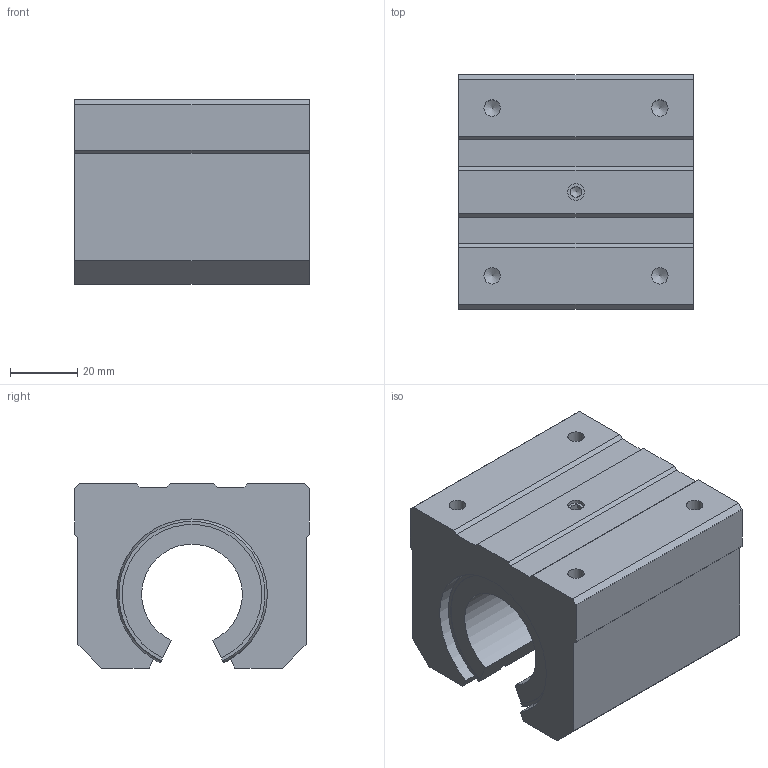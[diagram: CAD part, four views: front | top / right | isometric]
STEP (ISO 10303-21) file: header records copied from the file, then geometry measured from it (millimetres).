
FILE_DESCRIPTION((''),'2;1');
FILE_NAME('D:\製品 (図面)\カタログ用3D\GHA30H.stp','2010-06-07T16:10:50',('Tsuchiya'),(''),'Autodesk Inventor 10','Autodesk Inventor 10','');
FILE_SCHEMA(('AUTOMOTIVE_DESIGN { 1 0 10303 214 1 1 1 1 }'));
Length unit declared in the file: millimetre
Products named in the file (1): GHA30H
Bounding box: 70 x 70 x 55 mm (x, y, z)
Volume: 193645.3 mm3; surface area: 31177.8 mm2
Topology: 1 solids, 1 shells, 69 faces, 197 edges, 127 vertices
Faces by surface type: plane 41, cylinder 15, bspline 10, torus 2, cone 1
Entity records: 2274 total; most frequent: CARTESIAN_POINT 576, ORIENTED_EDGE 356, DIRECTION 330, EDGE_CURVE 178, VECTOR 126, LINE 126, VERTEX_POINT 118, AXIS2_PLACEMENT_3D 102
